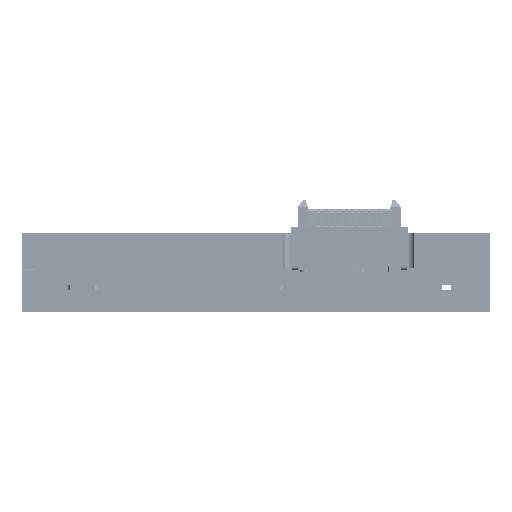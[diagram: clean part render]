
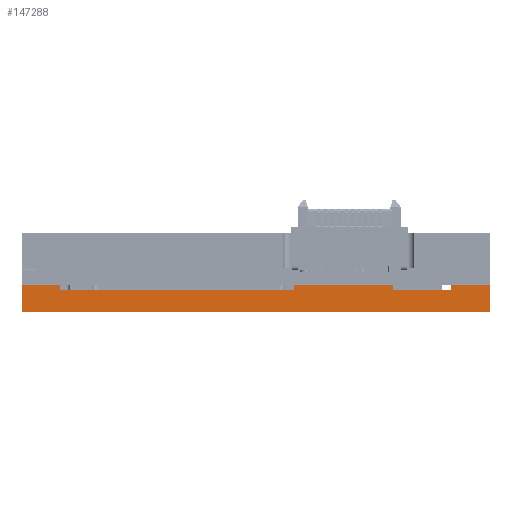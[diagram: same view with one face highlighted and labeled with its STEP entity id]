
A CAD part, front view. The second image highlights one B-rep face of the part: STEP entity #147288.
In plain terms, the highlighted planar face has unit normal (0, -1, 0).
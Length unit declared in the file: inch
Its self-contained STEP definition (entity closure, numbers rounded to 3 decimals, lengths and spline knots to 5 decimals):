
#971 = CARTESIAN_POINT ( 'NONE',  ( 0.175, 0., 0.103 ) ) ;
#3962 = VERTEX_POINT ( 'NONE', #173442 ) ;
#4625 = DIRECTION ( 'NONE',  ( 0., 0., 1. ) ) ;
#5262 = CARTESIAN_POINT ( 'NONE',  ( 0., 0., 0.125 ) ) ;
#5901 = VECTOR ( 'NONE', #65349, 39.37008 ) ;
#7611 = CARTESIAN_POINT ( 'NONE',  ( 2.18, 0., 0.125 ) ) ;
#11058 = CARTESIAN_POINT ( 'NONE',  ( 1.2659, 0., 0.103 ) ) ;
#11852 = EDGE_CURVE ( 'NONE', #61396, #119006, #125305, .T. ) ;
#18368 = VERTEX_POINT ( 'NONE', #55111 ) ;
#18565 = VERTEX_POINT ( 'NONE', #33330 ) ;
#19815 = DIRECTION ( 'NONE',  ( 0., 0., -1. ) ) ;
#20483 = CARTESIAN_POINT ( 'NONE',  ( 1.72991, 0., 0.103 ) ) ;
#21610 = LINE ( 'NONE', #5262, #98627 ) ;
#21620 = VERTEX_POINT ( 'NONE', #65266 ) ;
#22278 = LINE ( 'NONE', #20483, #135303 ) ;
#30110 = DIRECTION ( 'NONE',  ( 0., 0., -1. ) ) ;
#31873 = CARTESIAN_POINT ( 'NONE',  ( 2.18, 0., 0.125 ) ) ;
#33330 = CARTESIAN_POINT ( 'NONE',  ( 2.18, 0., 0. ) ) ;
#35125 = CARTESIAN_POINT ( 'NONE',  ( 0., 0., 0.125 ) ) ;
#37616 = VERTEX_POINT ( 'NONE', #165809 ) ;
#39889 = VERTEX_POINT ( 'NONE', #152567 ) ;
#41959 = EDGE_CURVE ( 'NONE', #21620, #119006, #53264, .T. ) ;
#44455 = ORIENTED_EDGE ( 'NONE', *, *, #169456, .T. ) ;
#47146 = LINE ( 'NONE', #102554, #67894 ) ;
#47410 = DIRECTION ( 'NONE',  ( 1., 0., 0. ) ) ;
#48656 = VECTOR ( 'NONE', #96281, 39.37008 ) ;
#49722 = EDGE_CURVE ( 'NONE', #37616, #118581, #22278, .T. ) ;
#50633 = LINE ( 'NONE', #131481, #81607 ) ;
#51690 = CARTESIAN_POINT ( 'NONE',  ( 1.998, 0., 0.103 ) ) ;
#51915 = ORIENTED_EDGE ( 'NONE', *, *, #75338, .T. ) ;
#52333 = EDGE_CURVE ( 'NONE', #39889, #118581, #95369, .T. ) ;
#53264 = LINE ( 'NONE', #124041, #60987 ) ;
#55111 = CARTESIAN_POINT ( 'NONE',  ( 1.998, 0., 0.103 ) ) ;
#55538 = EDGE_LOOP ( 'NONE', ( #122091, #64211, #154599, #100825, #173039, #55781, #96397, #44455, #51915, #132590, #127201, #121623 ) ) ;
#55781 = ORIENTED_EDGE ( 'NONE', *, *, #11852, .T. ) ;
#57584 = CARTESIAN_POINT ( 'NONE',  ( 0.175, 0., 0.125 ) ) ;
#57875 = EDGE_CURVE ( 'NONE', #18368, #70337, #121590, .T. ) ;
#60141 = FACE_OUTER_BOUND ( 'NONE', #55538, .T. ) ;
#60987 = VECTOR ( 'NONE', #93271, 39.37008 ) ;
#61034 = PLANE ( 'NONE',  #96937 ) ;
#61396 = VERTEX_POINT ( 'NONE', #160984 ) ;
#63525 = VECTOR ( 'NONE', #4625, 39.37008 ) ;
#64211 = ORIENTED_EDGE ( 'NONE', *, *, #49722, .T. ) ;
#65266 = CARTESIAN_POINT ( 'NONE',  ( 0., 0., 0.125 ) ) ;
#65349 = DIRECTION ( 'NONE',  ( 0., 0., 1. ) ) ;
#67894 = VECTOR ( 'NONE', #132461, 39.37008 ) ;
#70337 = VERTEX_POINT ( 'NONE', #167877 ) ;
#71756 = CARTESIAN_POINT ( 'NONE',  ( 1.2659, 0., 0.103 ) ) ;
#72273 = VECTOR ( 'NONE', #30110, 39.37008 ) ;
#75338 = EDGE_CURVE ( 'NONE', #3962, #18565, #47146, .T. ) ;
#75553 = DIRECTION ( 'NONE',  ( 0., 1., 0. ) ) ;
#79643 = EDGE_CURVE ( 'NONE', #91800, #18565, #113543, .T. ) ;
#81607 = VECTOR ( 'NONE', #173156, 39.37008 ) ;
#82815 = EDGE_CURVE ( 'NONE', #61396, #175872, #50633, .T. ) ;
#85303 = CARTESIAN_POINT ( 'NONE',  ( 0., 0., 0.125 ) ) ;
#91339 = CARTESIAN_POINT ( 'NONE',  ( 1.72991, 0., 0.125 ) ) ;
#91800 = VERTEX_POINT ( 'NONE', #7611 ) ;
#93001 = DIRECTION ( 'NONE',  ( 1., 0., 0. ) ) ;
#93271 = DIRECTION ( 'NONE',  ( 1., 0., 0. ) ) ;
#95369 = LINE ( 'NONE', #85303, #48656 ) ;
#96281 = DIRECTION ( 'NONE',  ( 1., 0., 0. ) ) ;
#96397 = ORIENTED_EDGE ( 'NONE', *, *, #41959, .F. ) ;
#96937 = AXIS2_PLACEMENT_3D ( 'NONE', #171728, #75553, #47410 ) ;
#98627 = VECTOR ( 'NONE', #19815, 39.37008 ) ;
#100810 = LINE ( 'NONE', #71756, #63525 ) ;
#100825 = ORIENTED_EDGE ( 'NONE', *, *, #132811, .F. ) ;
#102554 = CARTESIAN_POINT ( 'NONE',  ( 0., 0., 0. ) ) ;
#109006 = EDGE_CURVE ( 'NONE', #70337, #91800, #175670, .T. ) ;
#112197 = VECTOR ( 'NONE', #161182, 39.37008 ) ;
#113543 = LINE ( 'NONE', #31873, #72273 ) ;
#118581 = VERTEX_POINT ( 'NONE', #91339 ) ;
#119006 = VERTEX_POINT ( 'NONE', #57584 ) ;
#119316 = DIRECTION ( 'NONE',  ( 0., 0., 1. ) ) ;
#121460 = VECTOR ( 'NONE', #93001, 39.37008 ) ;
#121590 = LINE ( 'NONE', #51690, #5901 ) ;
#121623 = ORIENTED_EDGE ( 'NONE', *, *, #57875, .F. ) ;
#122091 = ORIENTED_EDGE ( 'NONE', *, *, #132711, .F. ) ;
#124041 = CARTESIAN_POINT ( 'NONE',  ( 0., 0., 0.125 ) ) ;
#125305 = LINE ( 'NONE', #971, #141942 ) ;
#127067 = DIRECTION ( 'NONE',  ( 0., 0., 1. ) ) ;
#127201 = ORIENTED_EDGE ( 'NONE', *, *, #109006, .F. ) ;
#131481 = CARTESIAN_POINT ( 'NONE',  ( 0.22386, 0., 0.103 ) ) ;
#132461 = DIRECTION ( 'NONE',  ( 1., 0., 0. ) ) ;
#132590 = ORIENTED_EDGE ( 'NONE', *, *, #79643, .F. ) ;
#132711 = EDGE_CURVE ( 'NONE', #37616, #18368, #132959, .T. ) ;
#132811 = EDGE_CURVE ( 'NONE', #175872, #39889, #100810, .T. ) ;
#132959 = LINE ( 'NONE', #161916, #121460 ) ;
#135303 = VECTOR ( 'NONE', #119316, 39.37008 ) ;
#141942 = VECTOR ( 'NONE', #127067, 39.37008 ) ;
#147288 = ADVANCED_FACE ( 'NONE', ( #60141 ), #61034, .F. ) ;
#152567 = CARTESIAN_POINT ( 'NONE',  ( 1.2659, 0., 0.125 ) ) ;
#154599 = ORIENTED_EDGE ( 'NONE', *, *, #52333, .F. ) ;
#160984 = CARTESIAN_POINT ( 'NONE',  ( 0.175, 0., 0.103 ) ) ;
#161182 = DIRECTION ( 'NONE',  ( 1., 0., 0. ) ) ;
#161916 = CARTESIAN_POINT ( 'NONE',  ( 1.95765, 0., 0.103 ) ) ;
#165809 = CARTESIAN_POINT ( 'NONE',  ( 1.72991, 0., 0.103 ) ) ;
#167877 = CARTESIAN_POINT ( 'NONE',  ( 1.998, 0., 0.125 ) ) ;
#169456 = EDGE_CURVE ( 'NONE', #21620, #3962, #21610, .T. ) ;
#171728 = CARTESIAN_POINT ( 'NONE',  ( 0., 0., 0.125 ) ) ;
#173039 = ORIENTED_EDGE ( 'NONE', *, *, #82815, .F. ) ;
#173156 = DIRECTION ( 'NONE',  ( 1., 0., 0. ) ) ;
#173442 = CARTESIAN_POINT ( 'NONE',  ( 0., 0., 0. ) ) ;
#175670 = LINE ( 'NONE', #35125, #112197 ) ;
#175872 = VERTEX_POINT ( 'NONE', #11058 ) ;
